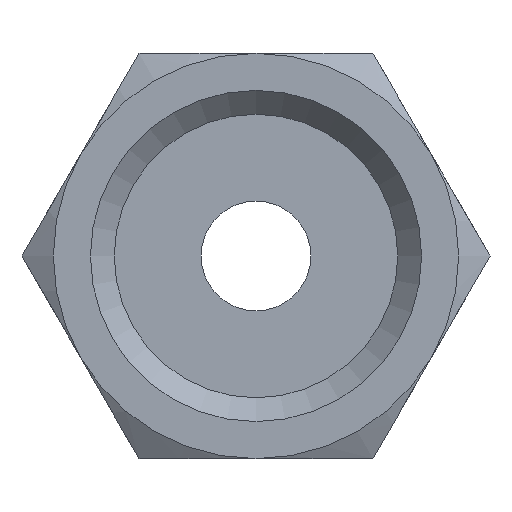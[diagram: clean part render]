
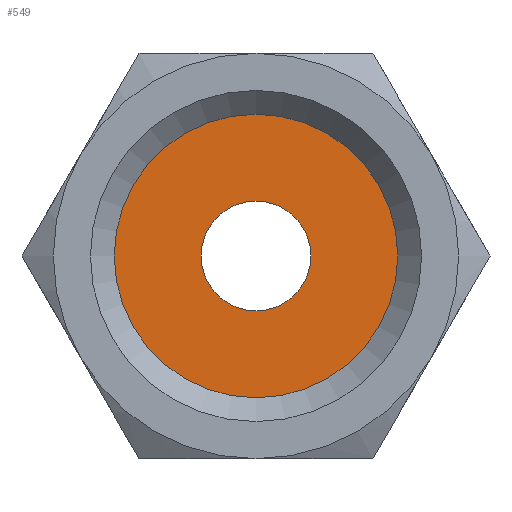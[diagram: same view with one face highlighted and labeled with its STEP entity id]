
A CAD part, front view. The second image highlights one B-rep face of the part: STEP entity #549.
In plain terms, the highlighted planar face has unit normal (0, -1, 0).
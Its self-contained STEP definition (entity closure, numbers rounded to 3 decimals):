
#50=FACE_BOUND('',#134,.T.);
#63=PLANE('',#635);
#95=FACE_OUTER_BOUND('',#133,.T.);
#133=EDGE_LOOP('',(#473,#474));
#134=EDGE_LOOP('',(#475,#476));
#183=CIRCLE('',#588,5.945);
#184=CIRCLE('',#589,5.945);
#205=CIRCLE('',#636,2.3);
#206=CIRCLE('',#637,2.3);
#224=VERTEX_POINT('',#844);
#225=VERTEX_POINT('',#846);
#257=VERTEX_POINT('',#1008);
#258=VERTEX_POINT('',#1009);
#278=EDGE_CURVE('',#225,#224,#183,.T.);
#279=EDGE_CURVE('',#224,#225,#184,.T.);
#334=EDGE_CURVE('',#257,#258,#205,.T.);
#335=EDGE_CURVE('',#258,#257,#206,.T.);
#473=ORIENTED_EDGE('',*,*,#278,.T.);
#474=ORIENTED_EDGE('',*,*,#279,.T.);
#475=ORIENTED_EDGE('',*,*,#334,.F.);
#476=ORIENTED_EDGE('',*,*,#335,.F.);
#549=ADVANCED_FACE('',(#95,#50),#63,.T.);
#588=AXIS2_PLACEMENT_3D('',#847,#680,#681);
#589=AXIS2_PLACEMENT_3D('',#848,#682,#683);
#635=AXIS2_PLACEMENT_3D('',#1007,#784,#785);
#636=AXIS2_PLACEMENT_3D('',#1010,#786,#787);
#637=AXIS2_PLACEMENT_3D('',#1011,#788,#789);
#680=DIRECTION('center_axis',(0.,-1.,0.));
#681=DIRECTION('ref_axis',(1.,0.,0.));
#682=DIRECTION('center_axis',(0.,-1.,0.));
#683=DIRECTION('ref_axis',(1.,0.,0.));
#784=DIRECTION('center_axis',(0.,-1.,0.));
#785=DIRECTION('ref_axis',(0.,0.,-1.));
#786=DIRECTION('center_axis',(0.,-1.,0.));
#787=DIRECTION('ref_axis',(1.,0.,0.));
#788=DIRECTION('center_axis',(0.,-1.,0.));
#789=DIRECTION('ref_axis',(1.,0.,0.));
#844=CARTESIAN_POINT('',(-5.945,11.,0.));
#846=CARTESIAN_POINT('',(5.945,11.,0.));
#847=CARTESIAN_POINT('Origin',(0.,11.,0.));
#848=CARTESIAN_POINT('Origin',(0.,11.,0.));
#1007=CARTESIAN_POINT('Origin',(2.3,11.,0.));
#1008=CARTESIAN_POINT('',(2.3,11.,0.));
#1009=CARTESIAN_POINT('',(-2.3,11.,0.));
#1010=CARTESIAN_POINT('Origin',(0.,11.,0.));
#1011=CARTESIAN_POINT('Origin',(0.,11.,0.));
